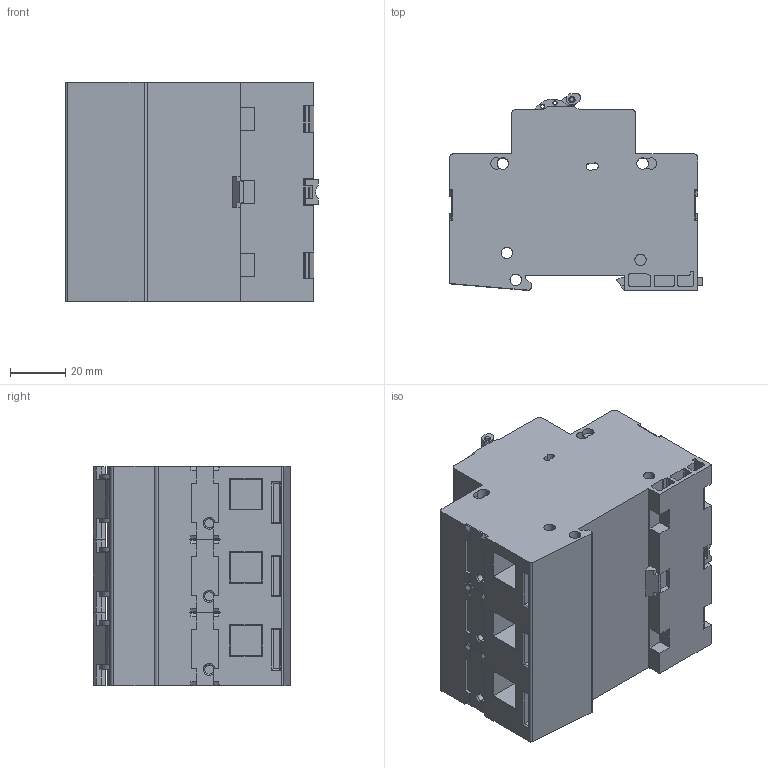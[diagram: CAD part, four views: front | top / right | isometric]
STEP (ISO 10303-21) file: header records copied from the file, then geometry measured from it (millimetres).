
FILE_DESCRIPTION (( 'STEP AP214' ), '1' );
FILE_NAME ('LST_3_zj_02.step', '2013-08-26T09:06:49', ( '' ), ( '' ), 'SwSTEP 2.0', 'SolidWorks 2011', '' );
FILE_SCHEMA (( 'AUTOMOTIVE_DESIGN' ));
Length unit declared in the file: millimetre
Products named in the file (1): LST_3_zj_02
Bounding box: 91.7 x 71.47 x 79.5 mm (x, y, z)
Volume: 370051.5 mm3; surface area: 54050.3 mm2
Topology: 1 solids, 8 shells, 1037 faces, 2771 edges, 1816 vertices
Faces by surface type: plane 612, cylinder 362, torus 21, bspline 18, cone 12, sphere 12
Entity records: 46528 total; most frequent: CARTESIAN_POINT 9069, ORIENTED_EDGE 5542, DIRECTION 5328, EDGE_CURVE 2771, VERTEX_POINT 1816, AXIS2_PLACEMENT_3D 1784, LINE 1760, VECTOR 1760
